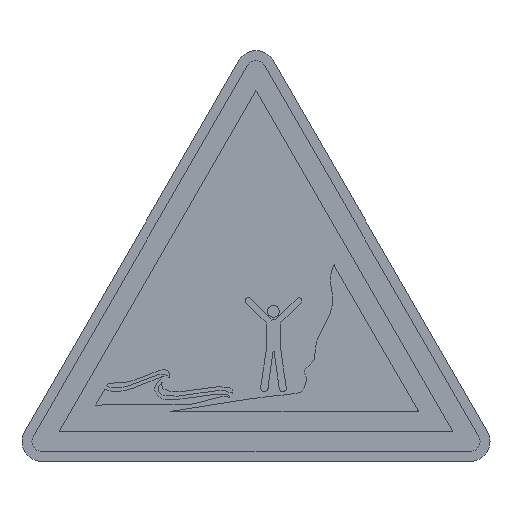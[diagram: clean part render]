
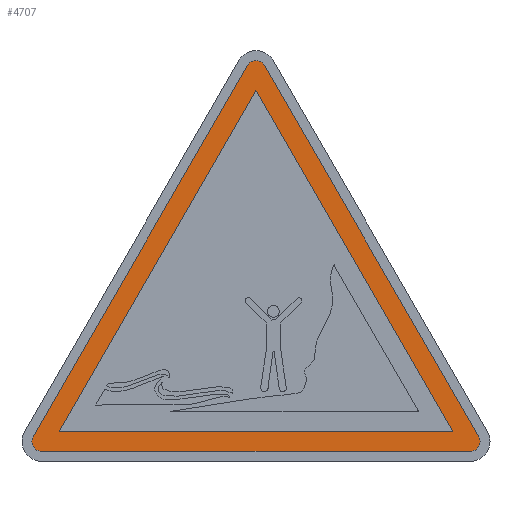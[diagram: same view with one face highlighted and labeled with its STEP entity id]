
A CAD part, top view. The second image highlights one B-rep face of the part: STEP entity #4707.
In plain terms, the highlighted planar face has unit normal (0, 0, 1).
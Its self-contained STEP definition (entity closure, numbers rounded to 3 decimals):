
#188 = DIRECTION ( 'NONE',  ( -0.5, -0.866, 0. ) ) ;
#313 = CARTESIAN_POINT ( 'NONE',  ( -22.536, 2., 0.22 ) ) ;
#447 = VECTOR ( 'NONE', #2069, 1000. ) ;
#481 = LINE ( 'NONE', #2826, #447 ) ;
#495 = ORIENTED_EDGE ( 'NONE', *, *, #2374, .T. ) ;
#574 = AXIS2_PLACEMENT_3D ( 'NONE', #2653, #2195, #4488 ) ;
#636 = CARTESIAN_POINT ( 'NONE',  ( 21.536, 1., 0.22 ) ) ;
#754 = VERTEX_POINT ( 'NONE', #2707 ) ;
#772 = VERTEX_POINT ( 'NONE', #1539 ) ;
#830 = VERTEX_POINT ( 'NONE', #1995 ) ;
#846 = CARTESIAN_POINT ( 'NONE',  ( 19.804, 3., 0.22 ) ) ;
#964 = VERTEX_POINT ( 'NONE', #1694 ) ;
#1020 = CARTESIAN_POINT ( 'NONE',  ( 22.402, 2.5, 0.22 ) ) ;
#1152 = CARTESIAN_POINT ( 'NONE',  ( -0.866, 39.801, 0.22 ) ) ;
#1413 = VECTOR ( 'NONE', #188, 1000. ) ;
#1539 = CARTESIAN_POINT ( 'NONE',  ( -19.804, 3., 0.22 ) ) ;
#1667 = CARTESIAN_POINT ( 'NONE',  ( -21.536, 2., 0.22 ) ) ;
#1694 = CARTESIAN_POINT ( 'NONE',  ( -22.402, 2.5, 0.22 ) ) ;
#1704 = CIRCLE ( 'NONE', #2438, 1. ) ;
#1892 = CARTESIAN_POINT ( 'NONE',  ( 0., 37.301, 0.22 ) ) ;
#1919 = LINE ( 'NONE', #1152, #6833 ) ;
#1995 = CARTESIAN_POINT ( 'NONE',  ( -0.866, 39.801, 0.22 ) ) ;
#2055 = DIRECTION ( 'NONE',  ( 1., 0., 0. ) ) ;
#2069 = DIRECTION ( 'NONE',  ( -0.5, 0.866, 0. ) ) ;
#2195 = DIRECTION ( 'NONE',  ( 0., 0., 1. ) ) ;
#2353 = EDGE_LOOP ( 'NONE', ( #4334, #3739, #3091 ) ) ;
#2374 = EDGE_CURVE ( 'NONE', #4997, #6066, #3086, .T. ) ;
#2438 = AXIS2_PLACEMENT_3D ( 'NONE', #4584, #7314, #3316 ) ;
#2653 = CARTESIAN_POINT ( 'NONE',  ( 0., 39.301, 0.22 ) ) ;
#2704 = LINE ( 'NONE', #3395, #3138 ) ;
#2707 = CARTESIAN_POINT ( 'NONE',  ( 0.866, 39.801, 0.22 ) ) ;
#2724 = DIRECTION ( 'NONE',  ( 1., 0., 0. ) ) ;
#2753 = FACE_BOUND ( 'NONE', #2353, .T. ) ;
#2826 = CARTESIAN_POINT ( 'NONE',  ( 22.402, 2.5, 0.22 ) ) ;
#3086 = CIRCLE ( 'NONE', #4366, 1. ) ;
#3091 = ORIENTED_EDGE ( 'NONE', *, *, #5935, .F. ) ;
#3138 = VECTOR ( 'NONE', #3433, 1000. ) ;
#3316 = DIRECTION ( 'NONE',  ( 1., 0., 0. ) ) ;
#3324 = ORIENTED_EDGE ( 'NONE', *, *, #4912, .T. ) ;
#3395 = CARTESIAN_POINT ( 'NONE',  ( 19.804, 3., 0.22 ) ) ;
#3433 = DIRECTION ( 'NONE',  ( -0.5, 0.866, 0. ) ) ;
#3586 = EDGE_CURVE ( 'NONE', #5422, #754, #481, .T. ) ;
#3639 = ORIENTED_EDGE ( 'NONE', *, *, #6825, .T. ) ;
#3739 = ORIENTED_EDGE ( 'NONE', *, *, #3902, .F. ) ;
#3902 = EDGE_CURVE ( 'NONE', #5929, #772, #4823, .T. ) ;
#4018 = CARTESIAN_POINT ( 'NONE',  ( -21.536, 2., 0.22 ) ) ;
#4031 = DIRECTION ( 'NONE',  ( 0., 0., 1. ) ) ;
#4062 = EDGE_CURVE ( 'NONE', #4121, #5422, #5790, .T. ) ;
#4121 = VERTEX_POINT ( 'NONE', #636 ) ;
#4206 = CARTESIAN_POINT ( 'NONE',  ( -21.536, 1., 0.22 ) ) ;
#4245 = CARTESIAN_POINT ( 'NONE',  ( -19.804, 3., 0.22 ) ) ;
#4289 = EDGE_CURVE ( 'NONE', #754, #830, #1704, .T. ) ;
#4334 = ORIENTED_EDGE ( 'NONE', *, *, #4437, .F. ) ;
#4366 = AXIS2_PLACEMENT_3D ( 'NONE', #4018, #5113, #7378 ) ;
#4437 = EDGE_CURVE ( 'NONE', #772, #5376, #5062, .T. ) ;
#4488 = DIRECTION ( 'NONE',  ( 1., 0., 0. ) ) ;
#4518 = CARTESIAN_POINT ( 'NONE',  ( 21.536, 2., 0.22 ) ) ;
#4584 = CARTESIAN_POINT ( 'NONE',  ( 0., 39.301, 0.22 ) ) ;
#4707 = ADVANCED_FACE ( 'NONE', ( #5054, #2753 ), #5539, .T. ) ;
#4813 = ORIENTED_EDGE ( 'NONE', *, *, #4289, .T. ) ;
#4823 = LINE ( 'NONE', #1892, #1413 ) ;
#4912 = EDGE_CURVE ( 'NONE', #6066, #4121, #5061, .T. ) ;
#4945 = CARTESIAN_POINT ( 'NONE',  ( -21.536, 1., 0.22 ) ) ;
#4997 = VERTEX_POINT ( 'NONE', #313 ) ;
#5054 = FACE_OUTER_BOUND ( 'NONE', #5930, .T. ) ;
#5061 = LINE ( 'NONE', #4945, #7169 ) ;
#5062 = LINE ( 'NONE', #4245, #6030 ) ;
#5113 = DIRECTION ( 'NONE',  ( 0., 0., 1. ) ) ;
#5235 = DIRECTION ( 'NONE',  ( -0.5, -0.866, 0. ) ) ;
#5376 = VERTEX_POINT ( 'NONE', #846 ) ;
#5422 = VERTEX_POINT ( 'NONE', #1020 ) ;
#5434 = ORIENTED_EDGE ( 'NONE', *, *, #5771, .T. ) ;
#5509 = AXIS2_PLACEMENT_3D ( 'NONE', #1667, #6686, #7244 ) ;
#5539 = PLANE ( 'NONE',  #574 ) ;
#5771 = EDGE_CURVE ( 'NONE', #830, #964, #1919, .T. ) ;
#5790 = CIRCLE ( 'NONE', #6245, 1. ) ;
#5929 = VERTEX_POINT ( 'NONE', #6605 ) ;
#5930 = EDGE_LOOP ( 'NONE', ( #4813, #5434, #3639, #495, #3324, #7024, #6133 ) ) ;
#5935 = EDGE_CURVE ( 'NONE', #5376, #5929, #2704, .T. ) ;
#5977 = CIRCLE ( 'NONE', #5509, 1. ) ;
#6030 = VECTOR ( 'NONE', #2724, 1000. ) ;
#6066 = VERTEX_POINT ( 'NONE', #4206 ) ;
#6133 = ORIENTED_EDGE ( 'NONE', *, *, #3586, .T. ) ;
#6245 = AXIS2_PLACEMENT_3D ( 'NONE', #4518, #4031, #6279 ) ;
#6279 = DIRECTION ( 'NONE',  ( 1., 0., 0. ) ) ;
#6605 = CARTESIAN_POINT ( 'NONE',  ( 0., 37.301, 0.22 ) ) ;
#6686 = DIRECTION ( 'NONE',  ( 0., 0., 1. ) ) ;
#6825 = EDGE_CURVE ( 'NONE', #964, #4997, #5977, .T. ) ;
#6833 = VECTOR ( 'NONE', #5235, 1000. ) ;
#7024 = ORIENTED_EDGE ( 'NONE', *, *, #4062, .T. ) ;
#7169 = VECTOR ( 'NONE', #2055, 1000. ) ;
#7244 = DIRECTION ( 'NONE',  ( 1., 0., 0. ) ) ;
#7314 = DIRECTION ( 'NONE',  ( 0., 0., 1. ) ) ;
#7378 = DIRECTION ( 'NONE',  ( 1., 0., 0. ) ) ;
